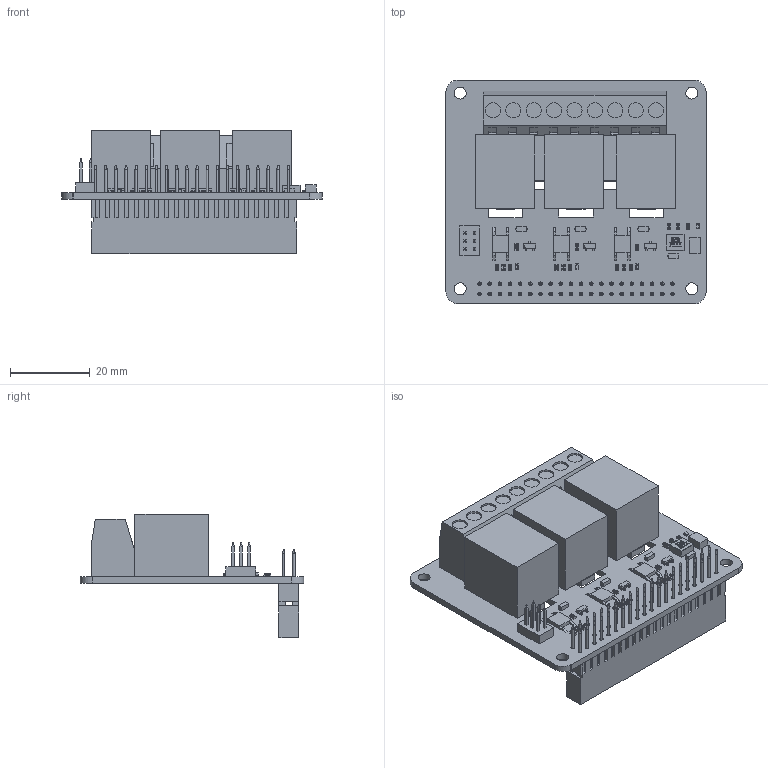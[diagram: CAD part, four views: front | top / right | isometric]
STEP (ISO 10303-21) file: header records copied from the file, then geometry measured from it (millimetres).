
FILE_DESCRIPTION(/* description */ (''),/* implementation_level */ '2;1');
FILE_NAME(/* name */ '3-Relay-rev1.1_step.prt.stp',/* time_stamp */ '2025-08-19T14:11:40+08:00',/* author */ (''),/* organization */ (''),/* preprocessor_version */ 'ST-DEVELOPER v16.7',/* originating_system */ 'SIEMENS PLM Software NX 12.0',/* authorisation */ '');
FILE_SCHEMA (('AUTOMOTIVE_DESIGN { 1 0 10303 214 3 1 1 1 }'));
Products named in the file (45): User_Library-LED_0603_R_Pad; User_Library-LED_0603_R_Pocket001; User_Library-LED_0603_R_Fillet; User_Library-LED_0603_R_Pad004; User_Library-LED_0603_R_Pocket002; C_060314618; LOGO_; 0420CDMCB_DS; SOT23-3; User_Library-R0603-2; Open CASCADE STEP translator 6.8 2.1.1; _ADDIANZ; A2dianz; Ashikoudianz; Ajikou; AHF3FF; aSANKOUPAIZ1; APAIZHEN; C_0603; C1; C2; User_Library-LED_0603_R; D3; D7; D8; D9; L1; Q1; Q2; Q3; R1; R2; R3; R4; R5; R6; R7; C3; C4; C5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
Assembly tree (69 placements, depth 4):
  3-Relay-rev1.1_step
    Board
      Open CASCADE STEP translator 6.8 2.1.1
    R10
      User_Library-R0603-2
    R9
      User_Library-R0603-2
    R8
      User_Library-R0603-2
    C5
      C_0603
        LOGO_
        C_060314618
    C4
      C_0603
        LOGO_
        C_060314618
    C3
      C_0603
        LOGO_
        C_060314618
    R7
      User_Library-R0603-2
    R6
      User_Library-R0603-2
    R5
      User_Library-R0603-2
    R4
      User_Library-R0603-2
    R3
      User_Library-R0603-2
    R2
      User_Library-R0603-2
    R1
      User_Library-R0603-2
    Q3
      SOT23-3
    Q2
      SOT23-3
    Q1
      SOT23-3
    L1
      0420CDMCB_DS
    D9
      User_Library-LED_0603_R
        User_Library-LED_0603_R_Pocket002
        User_Library-LED_0603_R_Pad004
        User_Library-LED_0603_R_Fillet
        User_Library-LED_0603_R_Pocket001
        User_Library-LED_0603_R_Pad
    D8
      User_Library-LED_0603_R
        User_Library-LED_0603_R_Pocket002
        User_Library-LED_0603_R_Pad004
        User_Library-LED_0603_R_Fillet
        User_Library-LED_0603_R_Pocket001
        User_Library-LED_0603_R_Pad
    D7
      User_Library-LED_0603_R
        User_Library-LED_0603_R_Pocket002
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Bounding box: 65.15 x 56 x 30.85 mm (x, y, z)
Volume: 26820.1 mm3; surface area: 21781.3 mm2
Topology: 200 solids, 200 shells, 3372 faces, 8393 edges, 5490 vertices
Faces by surface type: plane 1934, bspline 930, cylinder 420, sphere 48, cone 40
Full cylindrical faces by diameter (mm): 0.6 x40, 0.9 x46, 1.3 x15, 1.6 x9, 3 x4, 3.8 x9
Entity records: 59179 total; most frequent: CARTESIAN_POINT 20048, ORIENTED_EDGE 7504, DIRECTION 6596, EDGE_CURVE 3752, LINE 2876, VECTOR 2876, VERTEX_POINT 2570, EDGE_LOOP 1946
